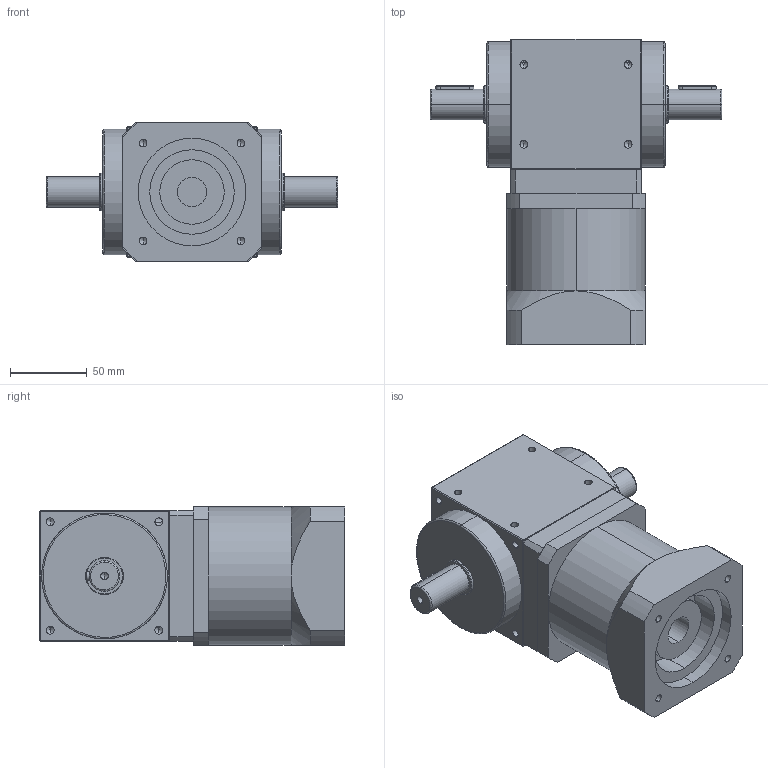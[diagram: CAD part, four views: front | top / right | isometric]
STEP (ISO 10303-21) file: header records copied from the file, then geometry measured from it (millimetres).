
FILE_DESCRIPTION (( 'STEP AP214' ), '1' );
FILE_NAME ('RXW085A-L2-2P-750W.STEP', '2020-12-05T02:39:00', ( '微软用户' ), ( '微软中国' ), 'SwSTEP 2.0', 'SolidWorks 2014', '' );
FILE_SCHEMA (( 'AUTOMOTIVE_DESIGN' ));
Length unit declared in the file: millimetre
Products named in the file (2): RXW085A-L2-2P-750W
Bounding box: 190 x 199 x 90 mm (x, y, z)
Volume: 1528765.7 mm3; surface area: 124610.9 mm2
Topology: 2 solids, 3 shells, 248 faces, 575 edges, 327 vertices
Faces by surface type: cylinder 96, plane 75, cone 69, bspline 8
Entity records: 9410 total; most frequent: CARTESIAN_POINT 1817, DIRECTION 1204, ORIENTED_EDGE 1074, EDGE_CURVE 537, AXIS2_PLACEMENT_3D 470, VERTEX_POINT 327, EDGE_LOOP 288, VECTOR 264
